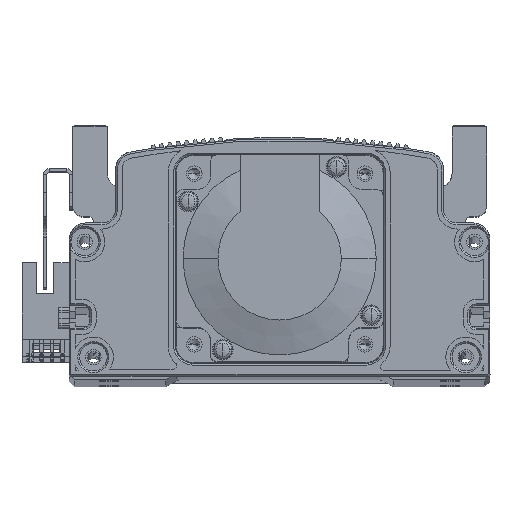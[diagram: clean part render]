
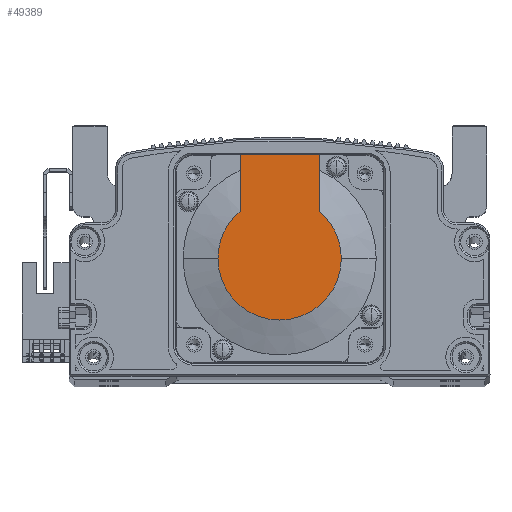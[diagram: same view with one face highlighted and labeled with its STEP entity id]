
A CAD part, top view. The second image highlights one B-rep face of the part: STEP entity #49389.
In plain terms, the highlighted planar face has unit normal (0, 0, 1) as drawn and (-1, 0, 0) by its records, which use the part's own axes.
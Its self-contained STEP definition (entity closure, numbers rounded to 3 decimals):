
#1689 = DIRECTION ( 'NONE',  ( 0., 0., 1. ) ) ;
#2279 = DIRECTION ( 'NONE',  ( 0., -1., 0. ) ) ;
#3308 = EDGE_CURVE ( 'NONE', #38682, #57470, #30163, .T. ) ;
#3428 = EDGE_CURVE ( 'NONE', #20632, #38682, #29285, .T. ) ;
#11080 = EDGE_CURVE ( 'NONE', #57470, #29987, #40870, .T. ) ;
#13023 = PLANE ( 'NONE',  #75295 ) ;
#13146 = DIRECTION ( 'NONE',  ( 0., -1., 0. ) ) ;
#13883 = AXIS2_PLACEMENT_3D ( 'NONE', #57207, #75296, #51314 ) ;
#15320 = LINE ( 'NONE', #24895, #46610 ) ;
#16349 = DIRECTION ( 'NONE',  ( -1., 0., 0. ) ) ;
#17426 = ORIENTED_EDGE ( 'NONE', *, *, #3308, .T. ) ;
#18483 = CARTESIAN_POINT ( 'NONE',  ( -118.5, 0., 17.881 ) ) ;
#20632 = VERTEX_POINT ( 'NONE', #24333 ) ;
#22012 = EDGE_CURVE ( 'NONE', #22344, #29987, #15320, .T. ) ;
#22344 = VERTEX_POINT ( 'NONE', #64468 ) ;
#24333 = CARTESIAN_POINT ( 'NONE',  ( -118.5, 13.735, -11.45 ) ) ;
#24475 = CARTESIAN_POINT ( 'NONE',  ( -118.5, 0., -17.881 ) ) ;
#24895 = CARTESIAN_POINT ( 'NONE',  ( -118.5, 0., 11.45 ) ) ;
#26069 = EDGE_LOOP ( 'NONE', ( #56022, #72071, #17426, #40776, #58384, #63072 ) ) ;
#27886 = DIRECTION ( 'NONE',  ( 0., 0., -1. ) ) ;
#28196 = CARTESIAN_POINT ( 'NONE',  ( -118.5, 30., -11.45 ) ) ;
#29285 = CIRCLE ( 'NONE', #35183, 17.881 ) ;
#29956 = EDGE_CURVE ( 'NONE', #55279, #22344, #69692, .T. ) ;
#29987 = VERTEX_POINT ( 'NONE', #38443 ) ;
#30163 = CIRCLE ( 'NONE', #47005, 17.881 ) ;
#34664 = VECTOR ( 'NONE', #62371, 1000. ) ;
#35183 = AXIS2_PLACEMENT_3D ( 'NONE', #51312, #16349, #27886 ) ;
#36879 = DIRECTION ( 'NONE',  ( 0., 0., -1. ) ) ;
#36883 = DIRECTION ( 'NONE',  ( -1., 0., 0. ) ) ;
#38443 = CARTESIAN_POINT ( 'NONE',  ( -118.5, 13.735, 11.45 ) ) ;
#38663 = EDGE_CURVE ( 'NONE', #55279, #20632, #54800, .T. ) ;
#38682 = VERTEX_POINT ( 'NONE', #24475 ) ;
#40776 = ORIENTED_EDGE ( 'NONE', *, *, #11080, .T. ) ;
#40870 = CIRCLE ( 'NONE', #13883, 17.881 ) ;
#43580 = CARTESIAN_POINT ( 'NONE',  ( -118.5, 0., 0. ) ) ;
#46610 = VECTOR ( 'NONE', #2279, 1000. ) ;
#47005 = AXIS2_PLACEMENT_3D ( 'NONE', #43580, #60625, #36879 ) ;
#49389 = ADVANCED_FACE ( 'NONE', ( #66736 ), #13023, .T. ) ;
#51312 = CARTESIAN_POINT ( 'NONE',  ( -118.5, 0., 0. ) ) ;
#51314 = DIRECTION ( 'NONE',  ( 0., 0., -1. ) ) ;
#54533 = CARTESIAN_POINT ( 'NONE',  ( -118.5, -8.941, -11.45 ) ) ;
#54677 = CARTESIAN_POINT ( 'NONE',  ( -118.5, -8.941, 0. ) ) ;
#54800 = LINE ( 'NONE', #54533, #67676 ) ;
#55279 = VERTEX_POINT ( 'NONE', #28196 ) ;
#56022 = ORIENTED_EDGE ( 'NONE', *, *, #38663, .T. ) ;
#57207 = CARTESIAN_POINT ( 'NONE',  ( -118.5, 0., 0. ) ) ;
#57470 = VERTEX_POINT ( 'NONE', #18483 ) ;
#58384 = ORIENTED_EDGE ( 'NONE', *, *, #22012, .F. ) ;
#60625 = DIRECTION ( 'NONE',  ( -1., 0., 0. ) ) ;
#62371 = DIRECTION ( 'NONE',  ( 0., 0., 1. ) ) ;
#63072 = ORIENTED_EDGE ( 'NONE', *, *, #29956, .F. ) ;
#64468 = CARTESIAN_POINT ( 'NONE',  ( -118.5, 30., 11.45 ) ) ;
#66736 = FACE_OUTER_BOUND ( 'NONE', #26069, .T. ) ;
#67263 = CARTESIAN_POINT ( 'NONE',  ( -118.5, 30., 25. ) ) ;
#67676 = VECTOR ( 'NONE', #13146, 1000. ) ;
#69692 = LINE ( 'NONE', #67263, #34664 ) ;
#72071 = ORIENTED_EDGE ( 'NONE', *, *, #3428, .T. ) ;
#75295 = AXIS2_PLACEMENT_3D ( 'NONE', #54677, #36883, #1689 ) ;
#75296 = DIRECTION ( 'NONE',  ( -1., 0., 0. ) ) ;
